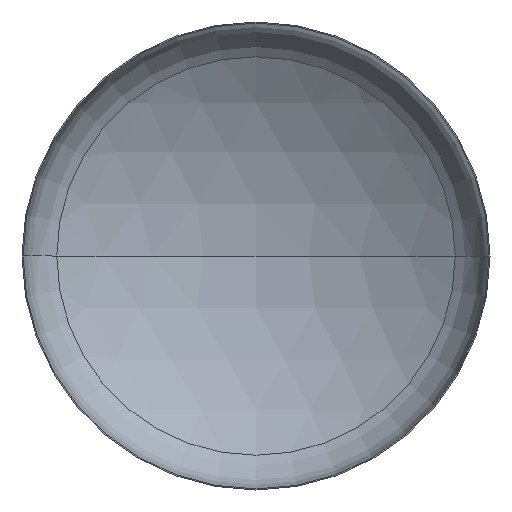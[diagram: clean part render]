
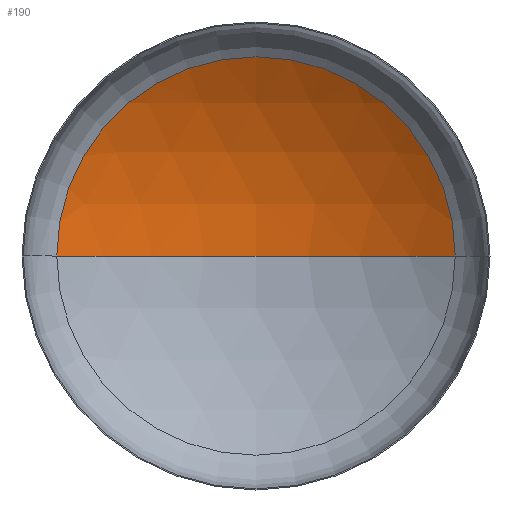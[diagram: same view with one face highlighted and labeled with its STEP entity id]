
A CAD part, front view. The second image highlights one B-rep face of the part: STEP entity #190.
In plain terms, the highlighted spherical face has radius 2080 mm.
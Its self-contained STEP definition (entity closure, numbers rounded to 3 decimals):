
#8 = AXIS2_PLACEMENT_3D ( 'NONE', #135, #156, #159 ) ;
#18 = ORIENTED_EDGE ( 'NONE', *, *, #374, .T. ) ;
#20 = AXIS2_PLACEMENT_3D ( 'NONE', #283, #222, #144 ) ;
#22 = AXIS2_PLACEMENT_3D ( 'NONE', #402, #403, #233 ) ;
#26 = DIRECTION ( 'NONE',  ( 0., 0., -1. ) ) ;
#27 = EDGE_LOOP ( 'NONE', ( #147, #114, #18 ) ) ;
#31 = VERTEX_POINT ( 'NONE', #298 ) ;
#50 = VERTEX_POINT ( 'NONE', #255 ) ;
#56 = AXIS2_PLACEMENT_3D ( 'NONE', #338, #26, #196 ) ;
#70 = CIRCLE ( 'NONE', #8, 1106.857 ) ;
#103 = VERTEX_POINT ( 'NONE', #200 ) ;
#114 = ORIENTED_EDGE ( 'NONE', *, *, #353, .T. ) ;
#135 = CARTESIAN_POINT ( 'NONE',  ( 0., 358.662, 0. ) ) ;
#144 = DIRECTION ( 'NONE',  ( 1., 0., 0. ) ) ;
#147 = ORIENTED_EDGE ( 'NONE', *, *, #357, .F. ) ;
#153 = SPHERICAL_SURFACE ( 'NONE', #56, 2080. ) ;
#156 = DIRECTION ( 'NONE',  ( 0., -1., 0. ) ) ;
#159 = DIRECTION ( 'NONE',  ( 1., 0., 0. ) ) ;
#190 = ADVANCED_FACE ( 'NONE', ( #278 ), #153, .F. ) ;
#196 = DIRECTION ( 'NONE',  ( -1., 0., 0. ) ) ;
#200 = CARTESIAN_POINT ( 'NONE',  ( 0., 677.62, 0. ) ) ;
#222 = DIRECTION ( 'NONE',  ( 0., 0., 1. ) ) ;
#233 = DIRECTION ( 'NONE',  ( -1., 0., 0. ) ) ;
#255 = CARTESIAN_POINT ( 'NONE',  ( 1106.857, 358.662, 0. ) ) ;
#278 = FACE_OUTER_BOUND ( 'NONE', #27, .T. ) ;
#283 = CARTESIAN_POINT ( 'NONE',  ( 0., -1402.38, 0. ) ) ;
#298 = CARTESIAN_POINT ( 'NONE',  ( -1106.857, 358.662, 0. ) ) ;
#307 = CIRCLE ( 'NONE', #20, 2080. ) ;
#338 = CARTESIAN_POINT ( 'NONE',  ( 0., -1402.38, 0. ) ) ;
#353 = EDGE_CURVE ( 'NONE', #103, #50, #378, .T. ) ;
#357 = EDGE_CURVE ( 'NONE', #103, #31, #307, .T. ) ;
#374 = EDGE_CURVE ( 'NONE', #50, #31, #70, .T. ) ;
#378 = CIRCLE ( 'NONE', #22, 2080. ) ;
#402 = CARTESIAN_POINT ( 'NONE',  ( 0., -1402.38, 0. ) ) ;
#403 = DIRECTION ( 'NONE',  ( 0., 0., -1. ) ) ;
